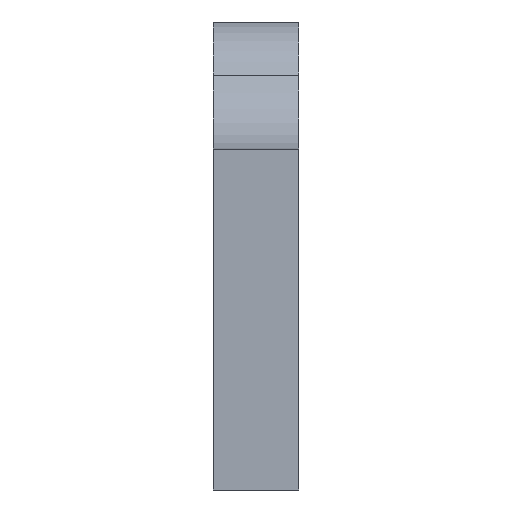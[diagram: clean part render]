
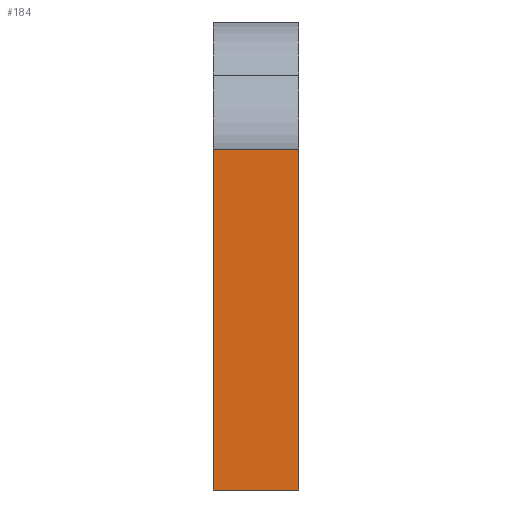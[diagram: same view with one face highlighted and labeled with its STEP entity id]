
A CAD part, front view. The second image highlights one B-rep face of the part: STEP entity #184.
In plain terms, the highlighted planar face has unit normal (0, -1, 0).
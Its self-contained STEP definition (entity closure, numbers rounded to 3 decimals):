
#61=CARTESIAN_POINT('Vertex',(-10.,0.,0.)) ;
#77=CARTESIAN_POINT('Vertex',(0.,0.,0.)) ;
#80=CARTESIAN_POINT('Line Origine',(-5.,0.,0.)) ;
#134=CARTESIAN_POINT('Vertex',(-10.,0.,40.)) ;
#137=CARTESIAN_POINT('Line Origine',(-5.,0.,40.)) ;
#141=CARTESIAN_POINT('Vertex',(0.,0.,40.)) ;
#163=CARTESIAN_POINT('Axis2P3D Location',(0.,0.,40.)) ;
#168=CARTESIAN_POINT('Line Origine',(-10.,0.,20.)) ;
#173=CARTESIAN_POINT('Line Origine',(0.,0.,20.)) ;
#81=DIRECTION('Vector Direction',(-1.,0.,0.)) ;
#138=DIRECTION('Vector Direction',(-1.,0.,0.)) ;
#164=DIRECTION('Axis2P3D Direction',(0.,1.,0.)) ;
#165=DIRECTION('Axis2P3D XDirection',(0.,0.,-1.)) ;
#169=DIRECTION('Vector Direction',(0.,0.,-1.)) ;
#174=DIRECTION('Vector Direction',(0.,0.,-1.)) ;
#166=AXIS2_PLACEMENT_3D('Plane Axis2P3D',#163,#164,#165) ;
#179=ORIENTED_EDGE('',*,*,#172,.T.) ;
#180=ORIENTED_EDGE('',*,*,#84,.F.) ;
#181=ORIENTED_EDGE('',*,*,#177,.F.) ;
#182=ORIENTED_EDGE('',*,*,#143,.T.) ;
#82=VECTOR('Line Direction',#81,1.) ;
#139=VECTOR('Line Direction',#138,1.) ;
#170=VECTOR('Line Direction',#169,1.) ;
#175=VECTOR('Line Direction',#174,1.) ;
#184=ADVANCED_FACE('Corps principal',(#183),#167,.F.) ;
#84=EDGE_CURVE('',#78,#62,#83,.T.) ;
#143=EDGE_CURVE('',#142,#135,#140,.T.) ;
#172=EDGE_CURVE('',#135,#62,#171,.T.) ;
#177=EDGE_CURVE('',#142,#78,#176,.T.) ;
#178=EDGE_LOOP('',(#179,#180,#181,#182)) ;
#183=FACE_OUTER_BOUND('',#178,.T.) ;
#83=LINE('Line',#80,#82) ;
#140=LINE('Line',#137,#139) ;
#171=LINE('Line',#168,#170) ;
#176=LINE('Line',#173,#175) ;
#167=PLANE('Plane',#166) ;
#62=VERTEX_POINT('',#61) ;
#78=VERTEX_POINT('',#77) ;
#135=VERTEX_POINT('',#134) ;
#142=VERTEX_POINT('',#141) ;
